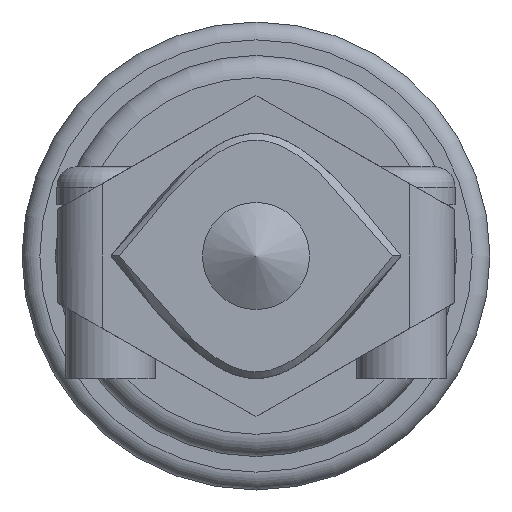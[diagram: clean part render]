
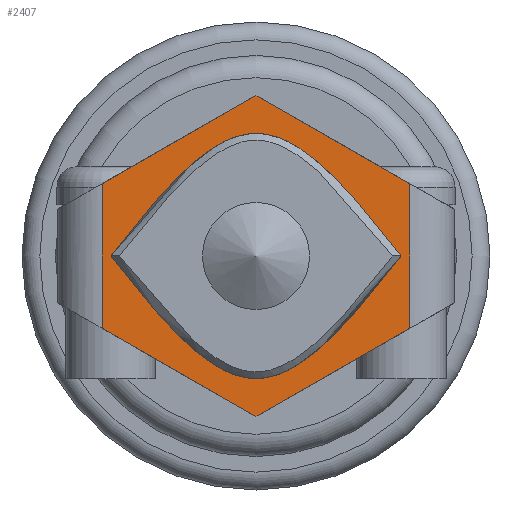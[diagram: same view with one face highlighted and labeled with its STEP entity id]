
A CAD part, left-side view. The second image highlights one B-rep face of the part: STEP entity #2407.
In plain terms, the highlighted planar face has unit normal (-1, 0, 0).
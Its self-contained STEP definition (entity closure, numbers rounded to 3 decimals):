
#87 = VERTEX_POINT ( 'NONE', #1801 ) ;
#94 = EDGE_CURVE ( 'NONE', #1372, #1356, #1652, .T. ) ;
#109 = DIRECTION ( 'NONE',  ( 0., 0., -1. ) ) ;
#182 = ORIENTED_EDGE ( 'NONE', *, *, #1366, .F. ) ;
#198 = VECTOR ( 'NONE', #109, 1000. ) ;
#201 = LINE ( 'NONE', #950, #884 ) ;
#221 = DIRECTION ( 'NONE',  ( 0., 0.868, -0.497 ) ) ;
#364 = CARTESIAN_POINT ( 'NONE',  ( 111.691, 47.761, 59.953 ) ) ;
#385 = ORIENTED_EDGE ( 'NONE', *, *, #1401, .T. ) ;
#511 = LINE ( 'NONE', #537, #1832 ) ;
#537 = CARTESIAN_POINT ( 'NONE',  ( 111.691, 45.761, 59.953 ) ) ;
#545 = CARTESIAN_POINT ( 'NONE',  ( 111.691, 54.661, 66.103 ) ) ;
#574 = VERTEX_POINT ( 'NONE', #1284 ) ;
#587 = DIRECTION ( 'NONE',  ( 1., 0., 0. ) ) ;
#656 = EDGE_CURVE ( 'NONE', #1929, #1372, #1674, .T. ) ;
#674 = CARTESIAN_POINT ( 'NONE',  ( 111.691, 61.561, 59.953 ) ) ;
#712 = LINE ( 'NONE', #2217, #1640 ) ;
#724 = CARTESIAN_POINT ( 'NONE',  ( 111.691, 54.661, 65.053 ) ) ;
#884 = VECTOR ( 'NONE', #1126, 1000. ) ;
#889 = CARTESIAN_POINT ( 'NONE',  ( 111.691, 61.161, 57.853 ) ) ;
#895 = CARTESIAN_POINT ( 'NONE',  ( 111.691, 50.327, 60.603 ) ) ;
#950 = CARTESIAN_POINT ( 'NONE',  ( 111.691, 63.561, 55.753 ) ) ;
#978 = EDGE_LOOP ( 'NONE', ( #1931, #182 ) ) ;
#983 = ORIENTED_EDGE ( 'NONE', *, *, #94, .T. ) ;
#998 = FACE_BOUND ( 'NONE', #978, .T. ) ;
#1055 = CARTESIAN_POINT ( 'NONE',  ( 111.691, 47.761, 61.099 ) ) ;
#1078 = CARTESIAN_POINT ( 'NONE',  ( 111.691, 61.161, 57.853 ) ) ;
#1094 = DIRECTION ( 'NONE',  ( 0., -0.868, 0.497 ) ) ;
#1110 = CARTESIAN_POINT ( 'NONE',  ( 111.691, 61.161, 57.853 ) ) ;
#1126 = DIRECTION ( 'NONE',  ( 0., -0.868, -0.497 ) ) ;
#1235 = ORIENTED_EDGE ( 'NONE', *, *, #1512, .T. ) ;
#1243 = VERTEX_POINT ( 'NONE', #1055 ) ;
#1261 = CARTESIAN_POINT ( 'NONE',  ( 111.691, 61.561, 61.099 ) ) ;
#1284 = CARTESIAN_POINT ( 'NONE',  ( 111.691, 48.161, 57.853 ) ) ;
#1292 = DIRECTION ( 'NONE',  ( 0., 0.868, 0.497 ) ) ;
#1304 = CARTESIAN_POINT ( 'NONE',  ( 111.691, 48.161, 57.853 ) ) ;
#1317 = VECTOR ( 'NONE', #221, 1000. ) ;
#1325 = DIRECTION ( 'NONE',  ( 0., 0., 1. ) ) ;
#1356 = VERTEX_POINT ( 'NONE', #1463 ) ;
#1366 = EDGE_CURVE ( 'NONE', #574, #1376, #2008, .T. ) ;
#1372 = VERTEX_POINT ( 'NONE', #1261 ) ;
#1376 = VERTEX_POINT ( 'NONE', #1078 ) ;
#1401 = EDGE_CURVE ( 'NONE', #1243, #1929, #511, .T. ) ;
#1433 = DIRECTION ( 'NONE',  ( 0., 0., 1. ) ) ;
#1441 = CARTESIAN_POINT ( 'NONE',  ( 111.691, 54.661, 49.603 ) ) ;
#1463 = CARTESIAN_POINT ( 'NONE',  ( 111.691, 61.561, 54.607 ) ) ;
#1512 = EDGE_CURVE ( 'NONE', #1356, #87, #201, .T. ) ;
#1536 = ORIENTED_EDGE ( 'NONE', *, *, #1901, .T. ) ;
#1595 = CARTESIAN_POINT ( 'NONE',  ( 111.691, 50.327, 55.103 ) ) ;
#1633 = B_SPLINE_CURVE_WITH_KNOTS ( 'NONE', 3,
 ( #889, #1974, #1441, #1595, #1963 ),
 .UNSPECIFIED., .F., .F.,
 ( 4, 1, 4 ),
 ( 0., 0.5, 1. ),
 .UNSPECIFIED. ) ;
#1640 = VECTOR ( 'NONE', #1094, 1000. ) ;
#1652 = LINE ( 'NONE', #674, #198 ) ;
#1674 = LINE ( 'NONE', #2249, #1317 ) ;
#1733 = EDGE_CURVE ( 'NONE', #1376, #574, #1633, .T. ) ;
#1801 = CARTESIAN_POINT ( 'NONE',  ( 111.691, 54.661, 50.653 ) ) ;
#1832 = VECTOR ( 'NONE', #1292, 1000. ) ;
#1901 = EDGE_CURVE ( 'NONE', #87, #2306, #712, .T. ) ;
#1929 = VERTEX_POINT ( 'NONE', #724 ) ;
#1931 = ORIENTED_EDGE ( 'NONE', *, *, #1733, .F. ) ;
#1949 = CARTESIAN_POINT ( 'NONE',  ( 111.691, 63.561, 59.953 ) ) ;
#1963 = CARTESIAN_POINT ( 'NONE',  ( 111.691, 48.161, 57.853 ) ) ;
#1974 = CARTESIAN_POINT ( 'NONE',  ( 111.691, 58.994, 55.103 ) ) ;
#2008 = B_SPLINE_CURVE_WITH_KNOTS ( 'NONE', 3,
 ( #1304, #895, #545, #2017, #1110 ),
 .UNSPECIFIED., .F., .F.,
 ( 4, 1, 4 ),
 ( 0., 0.5, 1. ),
 .UNSPECIFIED. ) ;
#2017 = CARTESIAN_POINT ( 'NONE',  ( 111.691, 58.994, 60.603 ) ) ;
#2081 = CARTESIAN_POINT ( 'NONE',  ( 111.691, 47.761, 54.607 ) ) ;
#2156 = ORIENTED_EDGE ( 'NONE', *, *, #656, .T. ) ;
#2166 = ORIENTED_EDGE ( 'NONE', *, *, #2310, .T. ) ;
#2169 = EDGE_LOOP ( 'NONE', ( #1536, #2166, #385, #2156, #983, #1235 ) ) ;
#2197 = AXIS2_PLACEMENT_3D ( 'NONE', #1949, #587, #1433 ) ;
#2217 = CARTESIAN_POINT ( 'NONE',  ( 111.691, 45.761, 55.753 ) ) ;
#2249 = CARTESIAN_POINT ( 'NONE',  ( 111.691, 63.561, 59.953 ) ) ;
#2272 = VECTOR ( 'NONE', #1325, 1000. ) ;
#2305 = PLANE ( 'NONE',  #2197 ) ;
#2306 = VERTEX_POINT ( 'NONE', #2081 ) ;
#2310 = EDGE_CURVE ( 'NONE', #2306, #1243, #2419, .T. ) ;
#2358 = FACE_OUTER_BOUND ( 'NONE', #2169, .T. ) ;
#2407 = ADVANCED_FACE ( 'NONE', ( #2358, #998 ), #2305, .F. ) ;
#2419 = LINE ( 'NONE', #364, #2272 ) ;
